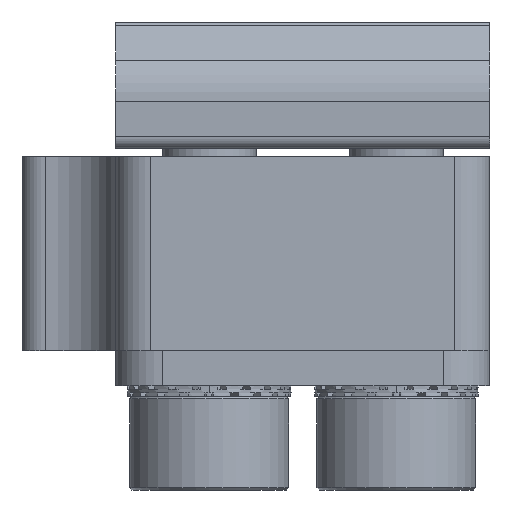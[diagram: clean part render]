
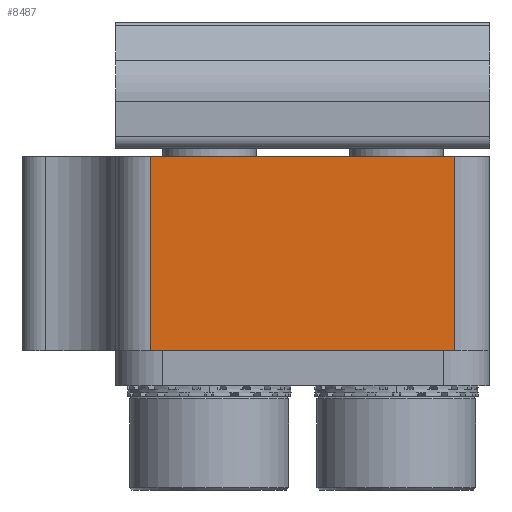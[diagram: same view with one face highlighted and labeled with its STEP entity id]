
A CAD part, front view. The second image highlights one B-rep face of the part: STEP entity #8487.
In plain terms, the highlighted planar face has unit normal (0, -1, 0).
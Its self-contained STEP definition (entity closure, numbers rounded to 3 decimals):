
#375 = LINE ( 'NONE', #10134, #2502 ) ;
#1025 = VECTOR ( 'NONE', #9888, 1000. ) ;
#1432 = LINE ( 'NONE', #2935, #3284 ) ;
#2063 = VERTEX_POINT ( 'NONE', #4106 ) ;
#2425 = ORIENTED_EDGE ( 'NONE', *, *, #9201, .T. ) ;
#2502 = VECTOR ( 'NONE', #4505, 1000. ) ;
#2626 = EDGE_LOOP ( 'NONE', ( #3964, #2425, #4499, #7068 ) ) ;
#2935 = CARTESIAN_POINT ( 'NONE',  ( -47.058, -5.977, 14.541 ) ) ;
#3284 = VECTOR ( 'NONE', #8527, 1000. ) ;
#3320 = DIRECTION ( 'NONE',  ( 0., 0., -1. ) ) ;
#3324 = DIRECTION ( 'NONE',  ( 0., -1., 0. ) ) ;
#3670 = VECTOR ( 'NONE', #3320, 1000. ) ;
#3764 = EDGE_CURVE ( 'NONE', #8151, #2063, #1432, .T. ) ;
#3964 = ORIENTED_EDGE ( 'NONE', *, *, #5311, .F. ) ;
#4106 = CARTESIAN_POINT ( 'NONE',  ( -61.558, -5.977, 14.541 ) ) ;
#4499 = ORIENTED_EDGE ( 'NONE', *, *, #3764, .T. ) ;
#4505 = DIRECTION ( 'NONE',  ( -1., 0., 0. ) ) ;
#4877 = CARTESIAN_POINT ( 'NONE',  ( -61.558, -5.977, 6.241 ) ) ;
#5311 = EDGE_CURVE ( 'NONE', #8081, #5351, #375, .T. ) ;
#5351 = VERTEX_POINT ( 'NONE', #7778 ) ;
#5569 = PLANE ( 'NONE',  #10253 ) ;
#6506 = CARTESIAN_POINT ( 'NONE',  ( -47.058, -5.977, 14.541 ) ) ;
#6690 = CARTESIAN_POINT ( 'NONE',  ( -48.558, -5.977, 14.541 ) ) ;
#7068 = ORIENTED_EDGE ( 'NONE', *, *, #7670, .T. ) ;
#7466 = CARTESIAN_POINT ( 'NONE',  ( -48.558, -5.977, 14.541 ) ) ;
#7670 = EDGE_CURVE ( 'NONE', #2063, #5351, #10304, .T. ) ;
#7778 = CARTESIAN_POINT ( 'NONE',  ( -61.558, -5.977, 6.241 ) ) ;
#7889 = FACE_OUTER_BOUND ( 'NONE', #2626, .T. ) ;
#8081 = VERTEX_POINT ( 'NONE', #8997 ) ;
#8151 = VERTEX_POINT ( 'NONE', #6690 ) ;
#8487 = ADVANCED_FACE ( 'NONE', ( #7889 ), #5569, .T. ) ;
#8527 = DIRECTION ( 'NONE',  ( -1., 0., 0. ) ) ;
#8921 = DIRECTION ( 'NONE',  ( 1., 0., 0. ) ) ;
#8997 = CARTESIAN_POINT ( 'NONE',  ( -48.558, -5.977, 6.241 ) ) ;
#9201 = EDGE_CURVE ( 'NONE', #8081, #8151, #9526, .T. ) ;
#9526 = LINE ( 'NONE', #7466, #1025 ) ;
#9888 = DIRECTION ( 'NONE',  ( 0., 0., 1. ) ) ;
#10134 = CARTESIAN_POINT ( 'NONE',  ( -47.058, -5.977, 6.241 ) ) ;
#10253 = AXIS2_PLACEMENT_3D ( 'NONE', #6506, #3324, #8921 ) ;
#10304 = LINE ( 'NONE', #4877, #3670 ) ;
